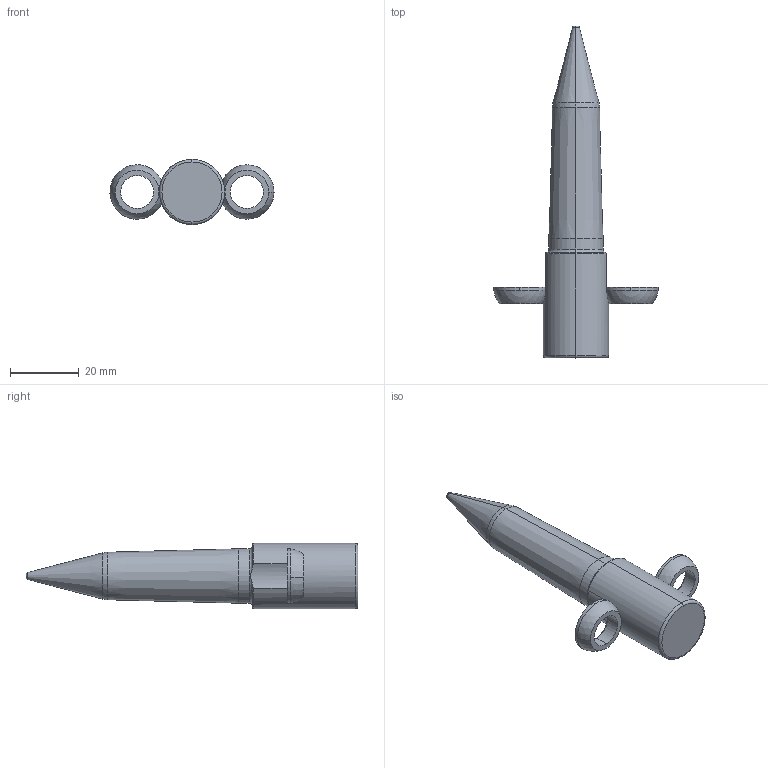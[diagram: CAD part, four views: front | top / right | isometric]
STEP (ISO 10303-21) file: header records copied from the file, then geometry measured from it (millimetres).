
FILE_DESCRIPTION (( 'STEP AP214' ), '1' );
FILE_NAME ('PA-T-.625-.125-1.5-3-A-F2.STEP', '2019-05-08T17:41:33', ( '' ), ( '' ), 'SwSTEP 2.0', 'SolidWorks 2017', '' );
FILE_SCHEMA (( 'AUTOMOTIVE_DESIGN' ));
Length unit declared in the file: inch
Products named in the file (3): PA-T-.625-.125-1.5-3-A-F2; SLPilot-PA-T-E_PA-T-.625-.125-1.5-3-A-F2; SLRadiusWasher_RadiusWasher-E
Assembly tree (3 placements, depth 2):
  PA-T-.625-.125-1.5-3-A-F2
    SLPilot-PA-T-E_PA-T-.625-.125-1.5-3-A-F2
    SLRadiusWasher_RadiusWasher-E  x2
Bounding box: 47.87 x 96.85 x 19.05 mm (x, y, z)
Volume: 18430.5 mm3; surface area: 5864.3 mm2
Topology: 3 solids, 3 shells, 49 faces, 112 edges, 69 vertices
Faces by surface type: cylinder 14, torus 11, sphere 8, cone 8, plane 8
Entity records: 1384 total; most frequent: CARTESIAN_POINT 332, DIRECTION 232, ORIENTED_EDGE 180, AXIS2_PLACEMENT_3D 107, EDGE_CURVE 90, CIRCLE 62, VERTEX_POINT 55, EDGE_LOOP 41
